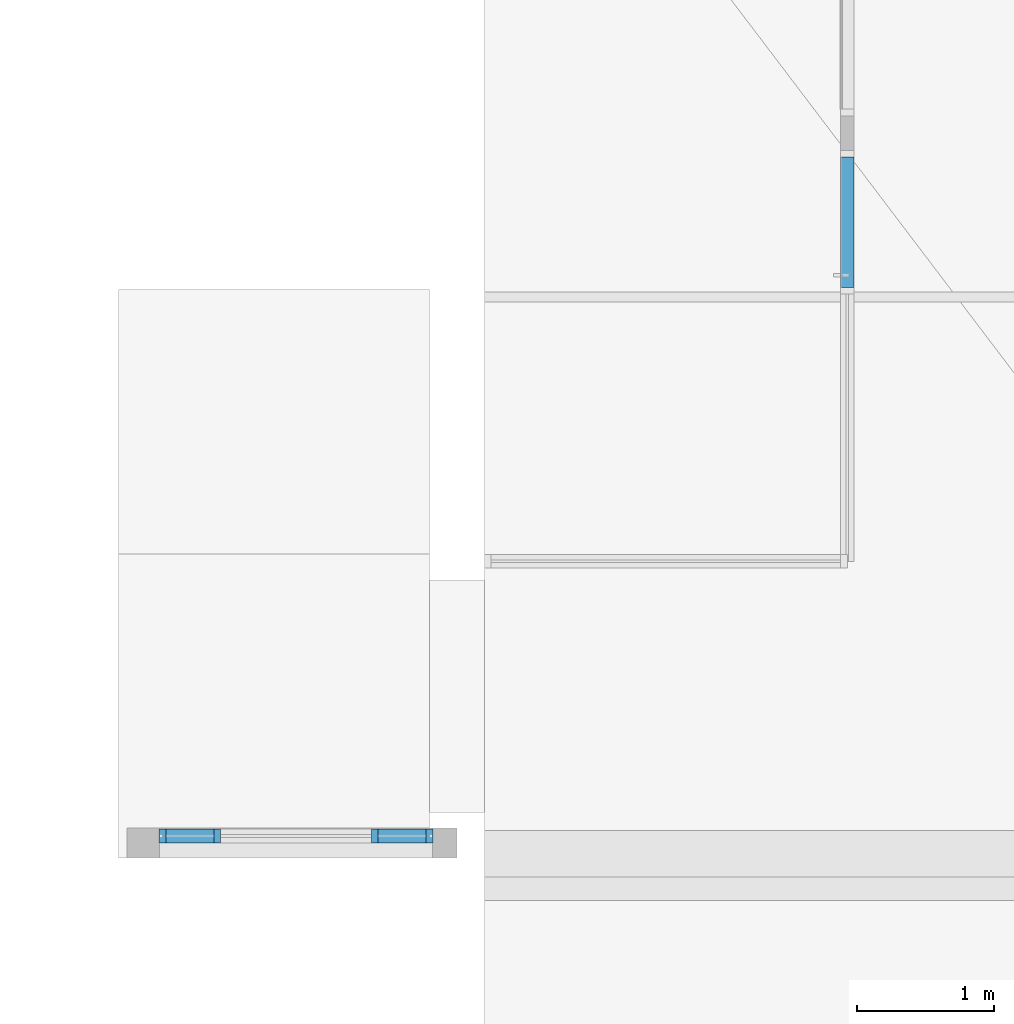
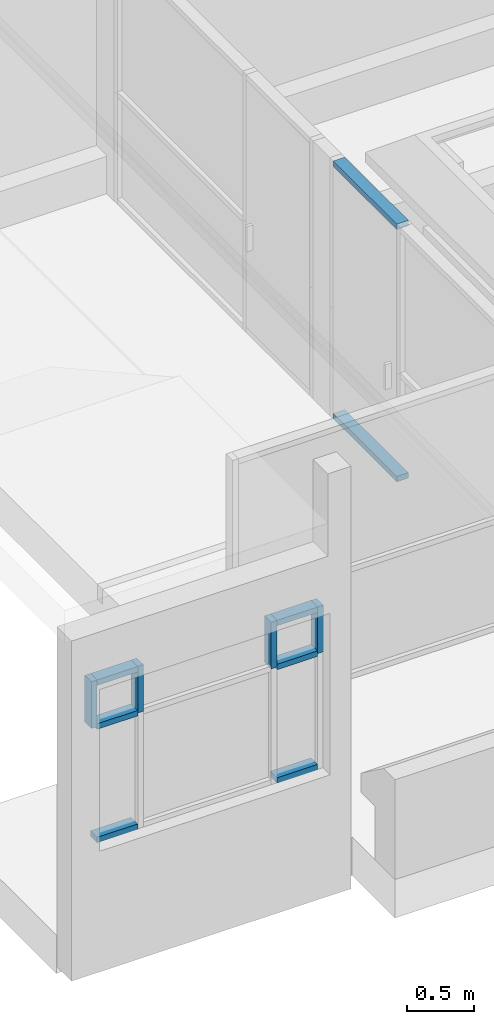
# One storey, part 30 of 153: 12 members, 2 elements without a shape of their own.
"""IFC4 building model written with IfcOpenShell, lengths in metres."""

from ifc_helpers import new_model, entity, si_unit, converted_unit, derived_unit, direction, frame, origin, place, context, subcontext, project, spatial, indexed_curve, outline, extrude, source, transform, mapped, material, type_object, type_shapes, element, aggregate, save


model = new_model("IFC4")

# Units and contexts
model_context = context("Model", 3, precision=1e-05, world=origin(), true_north=direction((6.123031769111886e-17, 1.0)))
body_context = subcontext(model_context, "Body", "Model", "MODEL_VIEW")
ifc_project = project(units=[si_unit("LENGTHUNIT", "METRE"), si_unit("AREAUNIT", "SQUARE_METRE"), si_unit("VOLUMEUNIT", "CUBIC_METRE"), converted_unit("PLANEANGLEUNIT", "DEGREE", entity("IfcRatioMeasure", 0.017453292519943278), si_unit("PLANEANGLEUNIT", "RADIAN"), dimensions=[0, 0, 0, 0, 0, 0, 0]), si_unit("MASSUNIT", "GRAM", prefix="KILO"), derived_unit("MASSDENSITYUNIT", [(si_unit("MASSUNIT", "GRAM", prefix="KILO"), 1), (si_unit("LENGTHUNIT", "METRE"), -3)]), derived_unit("MOMENTOFINERTIAUNIT", [(si_unit("LENGTHUNIT", "METRE"), 4)]), si_unit("TIMEUNIT", "SECOND"), si_unit("FREQUENCYUNIT", "HERTZ"), si_unit("THERMODYNAMICTEMPERATUREUNIT", "DEGREE_CELSIUS"), derived_unit("THERMALTRANSMITTANCEUNIT", [(si_unit("MASSUNIT", "GRAM", prefix="KILO"), 1), (si_unit("THERMODYNAMICTEMPERATUREUNIT", "KELVIN"), -1), (si_unit("TIMEUNIT", "SECOND"), -3)]), derived_unit("VOLUMETRICFLOWRATEUNIT", [(si_unit("LENGTHUNIT", "METRE"), 3), (si_unit("TIMEUNIT", "SECOND"), -1)]), derived_unit("MASSFLOWRATEUNIT", [(si_unit("MASSUNIT", "GRAM", prefix="KILO"), 1), (si_unit("TIMEUNIT", "SECOND"), -1)]), derived_unit("ROTATIONALFREQUENCYUNIT", [(si_unit("TIMEUNIT", "SECOND"), -1)]), si_unit("ELECTRICCURRENTUNIT", "AMPERE"), si_unit("ELECTRICVOLTAGEUNIT", "VOLT"), si_unit("POWERUNIT", "WATT"), si_unit("FORCEUNIT", "NEWTON", prefix="KILO"), si_unit("ILLUMINANCEUNIT", "LUX"), si_unit("LUMINOUSFLUXUNIT", "LUMEN"), si_unit("LUMINOUSINTENSITYUNIT", "CANDELA"), derived_unit("USERDEFINED", [(si_unit("MASSUNIT", "GRAM", prefix="KILO"), -1), (si_unit("LENGTHUNIT", "METRE"), -2), (si_unit("TIMEUNIT", "SECOND"), 3), (si_unit("LUMINOUSFLUXUNIT", "LUMEN"), 1)]), derived_unit("SOUNDPOWERUNIT", [(si_unit("MASSUNIT", "GRAM", prefix="KILO"), 1), (si_unit("LENGTHUNIT", "METRE"), 2), (si_unit("TIMEUNIT", "SECOND"), -3)]), derived_unit("SOUNDPRESSUREUNIT", [(si_unit("MASSUNIT", "GRAM", prefix="KILO"), 1), (si_unit("LENGTHUNIT", "METRE"), -1), (si_unit("TIMEUNIT", "SECOND"), -2)]), derived_unit("LINEARVELOCITYUNIT", [(si_unit("LENGTHUNIT", "METRE"), 1), (si_unit("TIMEUNIT", "SECOND"), -1)]), si_unit("PRESSUREUNIT", "PASCAL"), derived_unit("USERDEFINED", [(si_unit("LENGTHUNIT", "METRE"), -2), (si_unit("MASSUNIT", "GRAM", prefix="KILO"), 1), (si_unit("TIMEUNIT", "SECOND"), -2)]), derived_unit("LINEARFORCEUNIT", [(si_unit("MASSUNIT", "GRAM", prefix="KILO"), 1), (si_unit("LENGTHUNIT", "METRE"), 1), (si_unit("TIMEUNIT", "SECOND"), -2), (si_unit("LENGTHUNIT", "METRE"), -1)]), derived_unit("PLANARFORCEUNIT", [(si_unit("MASSUNIT", "GRAM", prefix="KILO"), 1), (si_unit("LENGTHUNIT", "METRE"), 1), (si_unit("TIMEUNIT", "SECOND"), -2), (si_unit("LENGTHUNIT", "METRE"), -2)])], contexts=[model_context])

# Site, building, storey
site_placement = place(None, origin())
site = spatial("IfcSite", under=ifc_project, at=site_placement, Name="Superficie", CompositionType="ELEMENT")
building_placement = place(site_placement, origin())
building = spatial("IfcBuilding", under=site, at=building_placement, CompositionType="ELEMENT")
storey_placement = place(building_placement, frame((0.0, 0.0, 3.5999999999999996)))
storey = spatial("IfcBuildingStorey", under=building, at=storey_placement, Name="Nivel 1", CompositionType="ELEMENT", Elevation=3.5999999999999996)

# Curtain wall, members
curtain_wall_type = type_object("IfcCurtainWallType", Name="Muro cortina:Muro cortina - simple", PredefinedType="NOTDEFINED")
curtain_wall_1_placement = place(storey_placement, frame((0.0, 0.0, -3.5999999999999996)))
curtain_wall_1 = element("IfcCurtainWall", 1, at=curtain_wall_1_placement, inside=storey, type_object=curtain_wall_type, Name="Muro cortina:Muro cortina - simple", ObjectType="Muro cortina:Muro cortina - simple", PredefinedType="NOTDEFINED")
ifc_material = material(Name="<Unnamed>")
member_type_1 = type_object("IfcMemberType", Name="Montante rectangular:Montante rectangular - 5 x 10 cm", PredefinedType="MULLION", material=ifc_material)
shared_shape_1 = source(origin(), body_context, "Body", "SweptSolid", [
    extrude(outline(indexed_curve([(-0.05, -0.025), (0.05, -0.025), (0.05, 0.025), (-0.05, 0.025), (-0.05, -0.025)], self_intersect=False)), frame((0.0, 0.0, -0.34999999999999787), z_axis=(0.0, 0.0, 1.0), x_axis=(0.0, -1.0, 0.0)), (0.0, 0.0, 1.0), 0.3499999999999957),
])
type_shapes(member_type_1, [shared_shape_1])
member_1_placement = place(curtain_wall_1_placement, frame((-23.068200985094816, -2.864170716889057, 5.554480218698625), z_axis=(1.0, 0.0, 0.0), x_axis=(0.0, 0.0, 1.0)))
member_1 = element("IfcMember", 2, at=member_1_placement, type_object=member_type_1, material=ifc_material, Name="Montante rectangular:Montante rectangular - 5 x 10 cm", ObjectType="Montante rectangular:Montante rectangular - 5 x 10 cm", PredefinedType="MULLION", context=body_context, shape_type="MappedRepresentation", body=[
    mapped(shared_shape_1, transform((0.0, 0.0, 0.0), scale=1.0)),
])
member_2_placement = place(curtain_wall_1_placement, frame((-24.618200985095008, -2.8641707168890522, 5.554480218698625), z_axis=(1.0, 0.0, 0.0), x_axis=(0.0, 0.0, 1.0)))
member_2 = element("IfcMember", 3, at=member_2_placement, type_object=member_type_1, material=ifc_material, Name="Montante rectangular:Montante rectangular - 5 x 10 cm", ObjectType="Montante rectangular:Montante rectangular - 5 x 10 cm", PredefinedType="MULLION", context=body_context, shape_type="MappedRepresentation", body=[
    mapped(shared_shape_1, transform((0.0, 0.0, 0.0), scale=1.0)),
])
member_3_placement = place(curtain_wall_1_placement, frame((-23.068200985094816, -2.864170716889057, 4.52), z_axis=(1.0, 0.0, 0.0), x_axis=(0.0, 0.0, 1.0)))
member_3 = element("IfcMember", 4, at=member_3_placement, type_object=member_type_1, material=ifc_material, Name="Montante rectangular:Montante rectangular - 5 x 10 cm", ObjectType="Montante rectangular:Montante rectangular - 5 x 10 cm", PredefinedType="MULLION", context=body_context, shape_type="MappedRepresentation", body=[
    mapped(shared_shape_1, transform((0.0, 0.0, 0.0), scale=1.0)),
])
member_4_placement = place(curtain_wall_1_placement, frame((-24.618200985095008, -2.8641707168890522, 4.52), z_axis=(1.0, 0.0, 0.0), x_axis=(0.0, 0.0, 1.0)))
member_4 = element("IfcMember", 5, at=member_4_placement, type_object=member_type_1, material=ifc_material, Name="Montante rectangular:Montante rectangular - 5 x 10 cm", ObjectType="Montante rectangular:Montante rectangular - 5 x 10 cm", PredefinedType="MULLION", context=body_context, shape_type="MappedRepresentation", body=[
    mapped(shared_shape_1, transform((0.0, 0.0, 0.0), scale=1.0)),
])
member_5_placement = place(curtain_wall_1_placement, frame((-23.068200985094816, -2.864170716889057, 5.954480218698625), z_axis=(1.0, 0.0, 0.0), x_axis=(0.0, 0.0, 1.0)))
member_5 = element("IfcMember", 6, at=member_5_placement, type_object=member_type_1, material=ifc_material, Name="Montante rectangular:Montante rectangular - 5 x 10 cm", ObjectType="Montante rectangular:Montante rectangular - 5 x 10 cm", PredefinedType="MULLION", context=body_context, shape_type="MappedRepresentation", body=[
    mapped(shared_shape_1, transform((0.0, 0.0, 0.0), scale=1.0)),
])
member_6_placement = place(curtain_wall_1_placement, frame((-24.618200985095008, -2.8641707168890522, 5.954480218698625), z_axis=(1.0, 0.0, 0.0), x_axis=(0.0, 0.0, 1.0)))
member_6 = element("IfcMember", 7, at=member_6_placement, type_object=member_type_1, material=ifc_material, Name="Montante rectangular:Montante rectangular - 5 x 10 cm", ObjectType="Montante rectangular:Montante rectangular - 5 x 10 cm", PredefinedType="MULLION", context=body_context, shape_type="MappedRepresentation", body=[
    mapped(shared_shape_1, transform((0.0, 0.0, 0.0), scale=1.0)),
])
member_type_2 = type_object("IfcMemberType", Name="Montante rectangular:Montante rectangular - 5 x 10 cm", PredefinedType="MULLION", material=ifc_material)
shared_shape_2 = source(origin(), body_context, "Body", "SweptSolid", [
    extrude(outline(indexed_curve([(-0.05, -0.025), (0.05, -0.025), (0.05, 0.025), (-0.05, 0.025), (-0.05, -0.025)], self_intersect=False)), frame((0.0, 0.0, -0.42499999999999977), z_axis=(0.0, 0.0, 1.0), x_axis=(0.0, -1.0, 0.0)), (0.0, 0.0, 1.0), 0.42499999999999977),
])
type_shapes(member_type_2, [shared_shape_2])
member_7_placement = place(curtain_wall_1_placement, frame((-24.59320098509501, -2.8641707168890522, 5.554480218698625), z_axis=(0.0, 0.0, -1.0), x_axis=(1.0, 0.0, 0.0)))
member_7 = element("IfcMember", 8, at=member_7_placement, type_object=member_type_2, material=ifc_material, Name="Montante rectangular:Montante rectangular - 5 x 10 cm", ObjectType="Montante rectangular:Montante rectangular - 5 x 10 cm", PredefinedType="MULLION", context=body_context, shape_type="MappedRepresentation", body=[
    mapped(shared_shape_2, transform((0.0, 0.0, 0.0), scale=1.0)),
])
member_8_placement = place(curtain_wall_1_placement, frame((-23.443200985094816, -2.8641707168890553, 5.554480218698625), z_axis=(0.0, 0.0, -1.0), x_axis=(1.0, 0.0, 0.0)))
member_8 = element("IfcMember", 9, at=member_8_placement, type_object=member_type_2, material=ifc_material, Name="Montante rectangular:Montante rectangular - 5 x 10 cm", ObjectType="Montante rectangular:Montante rectangular - 5 x 10 cm", PredefinedType="MULLION", context=body_context, shape_type="MappedRepresentation", body=[
    mapped(shared_shape_2, transform((0.0, 0.0, 0.0), scale=1.0)),
])
member_9_placement = place(curtain_wall_1_placement, frame((-23.043200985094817, -2.864170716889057, 5.554480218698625), z_axis=(0.0, 0.0, -1.0), x_axis=(1.0, 0.0, 0.0)))
member_9 = element("IfcMember", 10, at=member_9_placement, type_object=member_type_2, material=ifc_material, Name="Montante rectangular:Montante rectangular - 5 x 10 cm", ObjectType="Montante rectangular:Montante rectangular - 5 x 10 cm", PredefinedType="MULLION", context=body_context, shape_type="MappedRepresentation", body=[
    mapped(shared_shape_2, transform((0.0, 0.0, 0.0), scale=1.0)),
])
member_10_placement = place(curtain_wall_1_placement, frame((-24.99320098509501, -2.8641707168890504, 5.554480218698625), z_axis=(0.0, 0.0, -1.0), x_axis=(1.0, 0.0, 0.0)))
member_10 = element("IfcMember", 11, at=member_10_placement, type_object=member_type_2, material=ifc_material, Name="Montante rectangular:Montante rectangular - 5 x 10 cm", ObjectType="Montante rectangular:Montante rectangular - 5 x 10 cm", PredefinedType="MULLION", context=body_context, shape_type="MappedRepresentation", body=[
    mapped(shared_shape_2, transform((0.0, 0.0, 0.0), scale=1.0)),
])
aggregate(curtain_wall_1, [member_7, member_8, member_1, member_2, member_3, member_4, member_9, member_10, member_5, member_6])

curtain_wall_2_placement = place(storey_placement, frame((0.0, 0.0, -3.5999999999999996)))
curtain_wall_2 = element("IfcCurtainWall", 12, at=curtain_wall_2_placement, inside=storey, type_object=curtain_wall_type, Name="Muro cortina:Muro cortina - simple", ObjectType="Muro cortina:Muro cortina - simple", PredefinedType="NOTDEFINED")
member_type_3 = type_object("IfcMemberType", Name="Montante rectangular:Montante rectangular - 5 x 10 cm", PredefinedType="MULLION", material=ifc_material)
shared_shape_3 = source(origin(), body_context, "Body", "SweptSolid", [
    extrude(outline(indexed_curve([(-0.05, -0.025), (0.05, -0.025), (0.05, 0.025), (-0.05, 0.025), (-0.05, -0.025)], self_intersect=False)), frame((-0.025, 0.0, -0.9499999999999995), z_axis=(0.0, 0.0, 1.0), x_axis=(0.0, -1.0, 0.0)), (0.0, 0.0, 1.0), 0.9499999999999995),
])
type_shapes(member_type_3, [shared_shape_3])
member_11_placement = place(curtain_wall_2_placement, frame((-19.993200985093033, 1.142083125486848, 5.949999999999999), z_axis=(0.0, -1.0, 0.0), x_axis=(0.0, 0.0, 1.0)))
member_11 = element("IfcMember", 13, at=member_11_placement, type_object=member_type_3, material=ifc_material, Name="Montante rectangular:Montante rectangular - 5 x 10 cm", ObjectType="Montante rectangular:Montante rectangular - 5 x 10 cm", PredefinedType="MULLION", context=body_context, shape_type="MappedRepresentation", body=[
    mapped(shared_shape_3, transform((0.0, 0.0, 0.0), scale=1.0)),
])
member_type_4 = type_object("IfcMemberType", Name="Montante rectangular:Montante rectangular - 5 x 10 cm", PredefinedType="MULLION", material=ifc_material)
shared_shape_4 = source(origin(), body_context, "Body", "SweptSolid", [
    extrude(outline(indexed_curve([(-0.05, -0.025), (0.05, -0.025), (0.05, 0.025), (-0.05, 0.025), (-0.05, -0.025)], self_intersect=False)), frame((-0.025, 0.0, -0.9499999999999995), z_axis=(0.0, 0.0, 1.0), x_axis=(0.0, -1.0, 0.0)), (0.0, 0.0, 1.0), 0.9499999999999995),
])
type_shapes(member_type_4, [shared_shape_4])
member_12_placement = place(curtain_wall_2_placement, frame((-19.993200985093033, 2.092083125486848, 3.5999999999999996), z_axis=(0.0, 1.0, 0.0), x_axis=(0.0, 0.0, -1.0)))
member_12 = element("IfcMember", 14, at=member_12_placement, type_object=member_type_4, material=ifc_material, Name="Montante rectangular:Montante rectangular - 5 x 10 cm", ObjectType="Montante rectangular:Montante rectangular - 5 x 10 cm", PredefinedType="MULLION", context=body_context, shape_type="MappedRepresentation", body=[
    mapped(shared_shape_4, transform((0.0, 0.0, 0.0), scale=1.0)),
])
aggregate(curtain_wall_2, [member_12, member_11])

save(model, "model.ifc")
